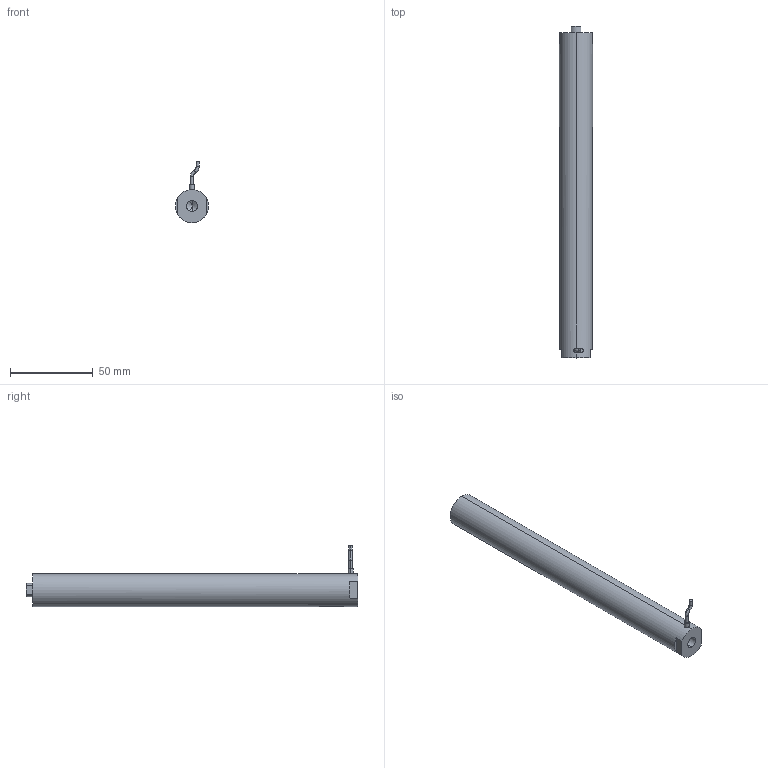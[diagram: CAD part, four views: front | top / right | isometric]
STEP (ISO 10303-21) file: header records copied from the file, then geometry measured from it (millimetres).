
FILE_DESCRIPTION (( 'STEP AP203' ), '1' );
FILE_NAME ('ﾄﾚﾂﾝﾎﾆﾊｽ200VS20.STEP', '2021-07-08T05:28:40', ( 'ﾎ｢ﾈ橆ﾃｻｧ' ), ( 'ﾎ｢ﾈ晥ｫﾋｾ' ), 'SwSTEP 2.0', 'SolidWorks 2016', '' );
FILE_SCHEMA (( 'CONFIG_CONTROL_DESIGN' ));
Products named in the file (1): 囀蹟恇宒200VS20
Bounding box: 20 x 201 x 37.06 mm (x, y, z)
Volume: 61500.2 mm3; surface area: 13562.6 mm2
Topology: 1 solids, 2 shells, 943 faces, 2549 edges, 1692 vertices
Faces by surface type: bspline 523, plane 303, cylinder 109, cone 4, torus 4
Entity records: 45905 total; most frequent: CARTESIAN_POINT 26868, ORIENTED_EDGE 5082, EDGE_CURVE 2541, DIRECTION 1921, B_SPLINE_CURVE_WITH_KNOTS 1726, VERTEX_POINT 1690, EDGE_LOOP 1031, FACE_OUTER_BOUND 942
